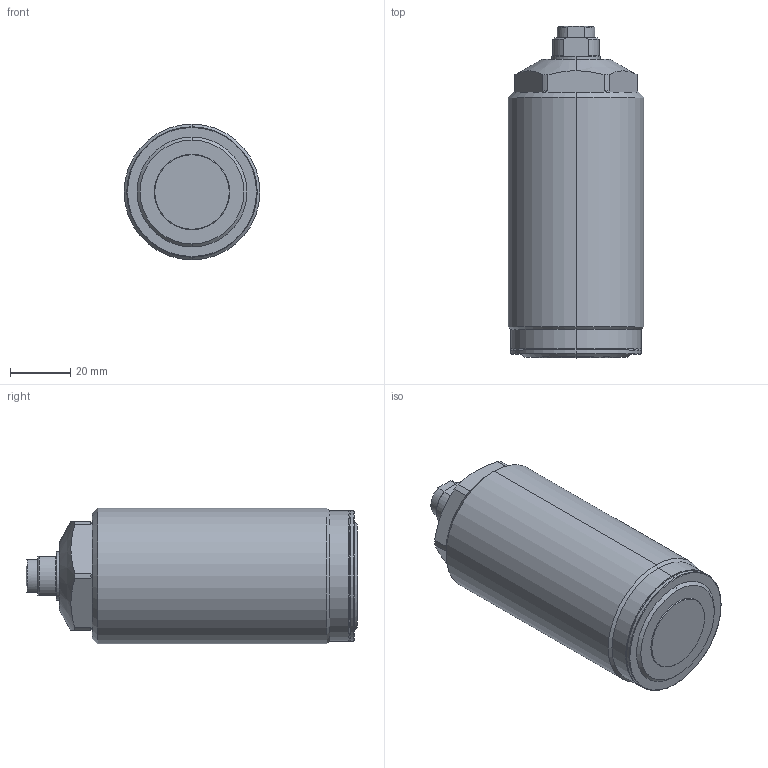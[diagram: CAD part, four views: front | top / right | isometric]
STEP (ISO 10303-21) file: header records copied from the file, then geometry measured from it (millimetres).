
FILE_DESCRIPTION(/* description */ (''),/* implementation_level */ '2;1');
FILE_NAME(/* name */ 'TSC06-PQ.stp',/* time_stamp */ '2024-01-06T13:51:09+08:00',/* author */ (''),/* organization */ (''),/* preprocessor_version */ 'ST-DEVELOPER v16.7',/* originating_system */ 'SIEMENS PLM Software NX 12.0',/* authorisation */ '');
FILE_SCHEMA (('AP203_CONFIGURATION_CONTROLLED_3D_DESIGN_OF_MECHANICAL_PARTS_AND_ASSEMBLIES_MIM_LF { 1 0 10303 403 2 1 2}'));
Length unit declared in the file: millimetre
Products named in the file (4): TSC06-PQ-03; TSC06-PQ-02; TSC06-PQ-01; CSY06-S20_step
Assembly tree (3 placements, depth 2):
  CSY06-S20_step
    TSC06-PQ-01
    TSC06-PQ-02
    TSC06-PQ-03
Bounding box: 45 x 109.96 x 45 mm (x, y, z)
Volume: 149411.1 mm3; surface area: 20054.6 mm2
Topology: 3 solids, 3 shells, 100 faces, 225 edges, 138 vertices
Faces by surface type: cylinder 32, plane 30, cone 22, torus 14, sphere 2
Entity records: 3283 total; most frequent: CARTESIAN_POINT 559, DIRECTION 528, ORIENTED_EDGE 450, AXIS2_PLACEMENT_3D 227, EDGE_CURVE 225, VERTEX_POINT 138, CIRCLE 123, EDGE_LOOP 107
